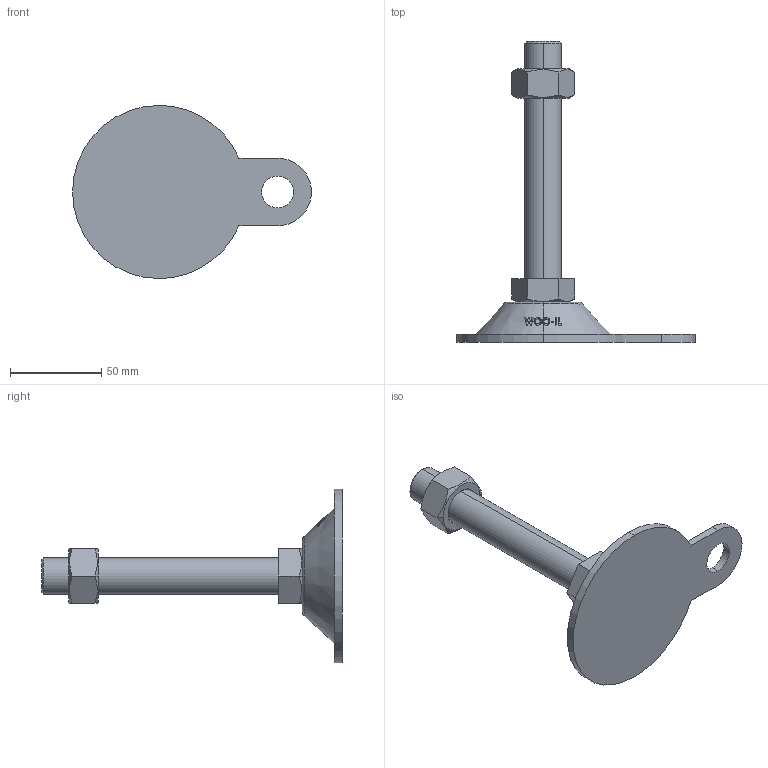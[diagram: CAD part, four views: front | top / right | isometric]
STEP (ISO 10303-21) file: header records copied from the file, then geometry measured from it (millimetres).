
FILE_DESCRIPTION (( 'STEP AP214' ), '1' );
FILE_NAME ('ABL95-M20-130.step', '2021-02-05T04:21:29', ( '' ), ( '' ), 'SwSTEP 2.0', 'SolidWorks 2019', '' );
FILE_SCHEMA (( 'AUTOMOTIVE_DESIGN' ));
Length unit declared in the file: millimetre
Products named in the file (2): ABL95-M20-130
Bounding box: 131 x 165 x 95 mm (x, y, z)
Volume: 141859.4 mm3; surface area: 32614.9 mm2
Topology: 2 solids, 2 shells, 128 faces, 328 edges, 214 vertices
Faces by surface type: plane 48, cylinder 38, cone 22, bspline 18, torus 2
Entity records: 5462 total; most frequent: CARTESIAN_POINT 2562, ORIENTED_EDGE 656, DIRECTION 474, EDGE_CURVE 328, VERTEX_POINT 214, AXIS2_PLACEMENT_3D 176, B_SPLINE_CURVE_WITH_KNOTS 142, EDGE_LOOP 142
